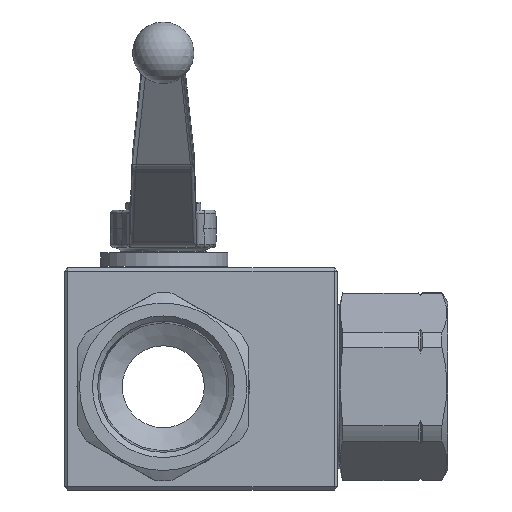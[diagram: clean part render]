
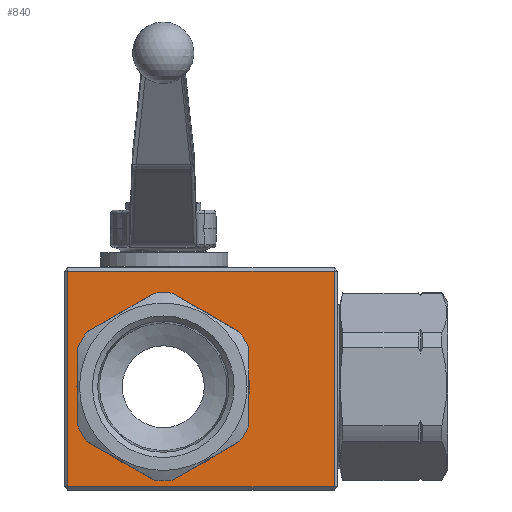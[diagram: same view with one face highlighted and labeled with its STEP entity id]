
A CAD part, front view. The second image highlights one B-rep face of the part: STEP entity #840.
In plain terms, the highlighted planar face has unit normal (0, -1, 0).
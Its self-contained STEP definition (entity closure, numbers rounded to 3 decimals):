
#840 = ADVANCED_FACE( '', ( #1840, #1841 ), #1842, .F. );
#1840 = FACE_OUTER_BOUND( '', #3295, .T. );
#1841 = FACE_BOUND( '', #3296, .T. );
#1842 = PLANE( '', #3297 );
#3295 = EDGE_LOOP( '', ( #5786, #5787, #5788, #5789 ) );
#3296 = EDGE_LOOP( '', ( #5790 ) );
#3297 = AXIS2_PLACEMENT_3D( '', #5791, #5792, #5793 );
#5786 = ORIENTED_EDGE( '', *, *, #8484, .T. );
#5787 = ORIENTED_EDGE( '', *, *, #8264, .T. );
#5788 = ORIENTED_EDGE( '', *, *, #8738, .T. );
#5789 = ORIENTED_EDGE( '', *, *, #8739, .T. );
#5790 = ORIENTED_EDGE( '', *, *, #8740, .F. );
#5791 = CARTESIAN_POINT( '', ( -29., -32.5, 34.8 ) );
#5792 = DIRECTION( '', ( 0., 1., 0. ) );
#5793 = DIRECTION( '', ( 0., 0., 1. ) );
#8264 = EDGE_CURVE( '', #9601, #9606, #9608, .T. );
#8484 = EDGE_CURVE( '', #9993, #9601, #9999, .T. );
#8738 = EDGE_CURVE( '', #9606, #9928, #10408, .T. );
#8739 = EDGE_CURVE( '', #9928, #9993, #10409, .T. );
#8740 = EDGE_CURVE( '', #10410, #10410, #10411, .T. );
#9601 = VERTEX_POINT( '', #11576 );
#9606 = VERTEX_POINT( '', #11583 );
#9608 = LINE( '', #11586, #11587 );
#9928 = VERTEX_POINT( '', #12447 );
#9993 = VERTEX_POINT( '', #12586 );
#9999 = LINE( '', #12595, #12596 );
#10408 = LINE( '', #13452, #13453 );
#10409 = LINE( '', #13454, #13455 );
#10410 = VERTEX_POINT( '', #13456 );
#10411 = CIRCLE( '', #13457, 25.25 );
#11576 = CARTESIAN_POINT( '', ( -28., -32.5, 33.8 ) );
#11583 = CARTESIAN_POINT( '', ( -28., -32.5, -29.2 ) );
#11586 = CARTESIAN_POINT( '', ( -28., -32.5, 34.8 ) );
#11587 = VECTOR( '', #16359, 1000. );
#12447 = CARTESIAN_POINT( '', ( 50., -32.5, -29.2 ) );
#12586 = CARTESIAN_POINT( '', ( 50., -32.5, 33.8 ) );
#12595 = CARTESIAN_POINT( '', ( -29., -32.5, 33.8 ) );
#12596 = VECTOR( '', #16606, 1000. );
#13452 = CARTESIAN_POINT( '', ( 51., -32.5, -29.2 ) );
#13453 = VECTOR( '', #16884, 1000. );
#13454 = CARTESIAN_POINT( '', ( 50., -32.5, 34.8 ) );
#13455 = VECTOR( '', #16885, 1000. );
#13456 = CARTESIAN_POINT( '', ( 25.25, -32.5, 0. ) );
#13457 = AXIS2_PLACEMENT_3D( '', #16886, #16887, #16888 );
#16359 = DIRECTION( '', ( 0., 0., -1. ) );
#16606 = DIRECTION( '', ( -1., 0., 0. ) );
#16884 = DIRECTION( '', ( 1., 0., 0. ) );
#16885 = DIRECTION( '', ( 0., 0., 1. ) );
#16886 = CARTESIAN_POINT( '', ( 0., -32.5, 0. ) );
#16887 = DIRECTION( '', ( 0., -1., 0. ) );
#16888 = DIRECTION( '', ( 1., 0., 0. ) );
